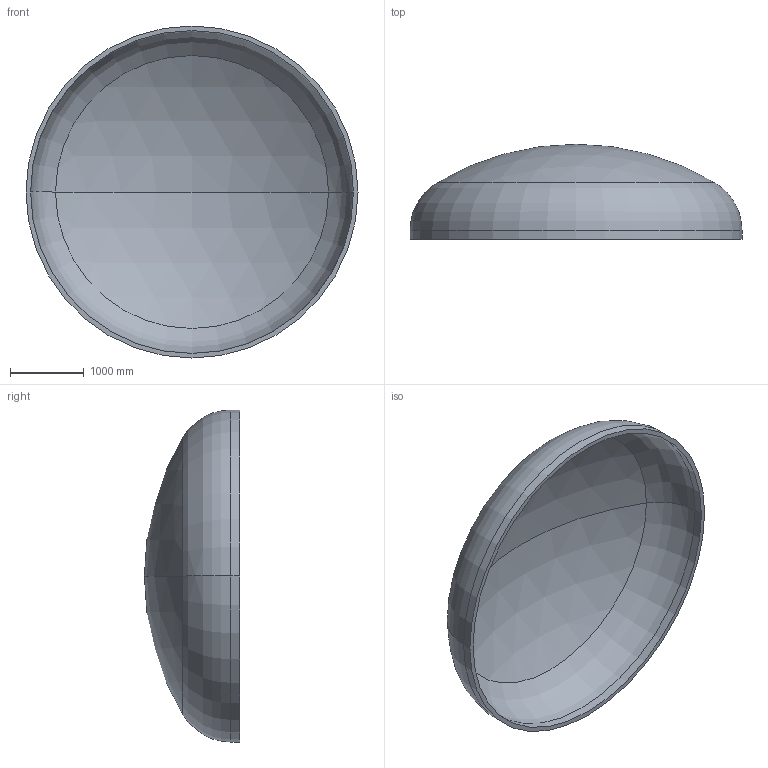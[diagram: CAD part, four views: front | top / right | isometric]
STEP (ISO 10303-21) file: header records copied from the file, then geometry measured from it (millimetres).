
FILE_DESCRIPTION (( 'STEP AP203' ), '1' );
FILE_NAME ('DIN 28013 Korbbogenform_-_Boden DIN 28013 - 4500 x 120 - I - s=62.step', '2016-07-01T23:36:33', ( '' ), ( '' ), 'SwSTEP 2.0', 'SolidWorks 2013', '' );
FILE_SCHEMA (( 'CONFIG_CONTROL_DESIGN' ));
Length unit declared in the file: millimetre
Products named in the file (1): DIN 28013 Korbbogenform_-_Boden DIN 28013 - 4500 x 120 - I - s=62
Bounding box: 4500 x 1290.02 x 4500 mm (x, y, z)
Volume: 1445545390.4 mm3; surface area: 47502958.4 mm2
Topology: 1 solids, 1 shells, 13 faces, 24 edges, 14 vertices
Faces by surface type: torus 4, cylinder 4, sphere 4, plane 1
Entity records: 407 total; most frequent: DIRECTION 72, CARTESIAN_POINT 52, ORIENTED_EDGE 48, AXIS2_PLACEMENT_3D 34, EDGE_CURVE 24, CIRCLE 20, EDGE_LOOP 14, VERTEX_POINT 14
